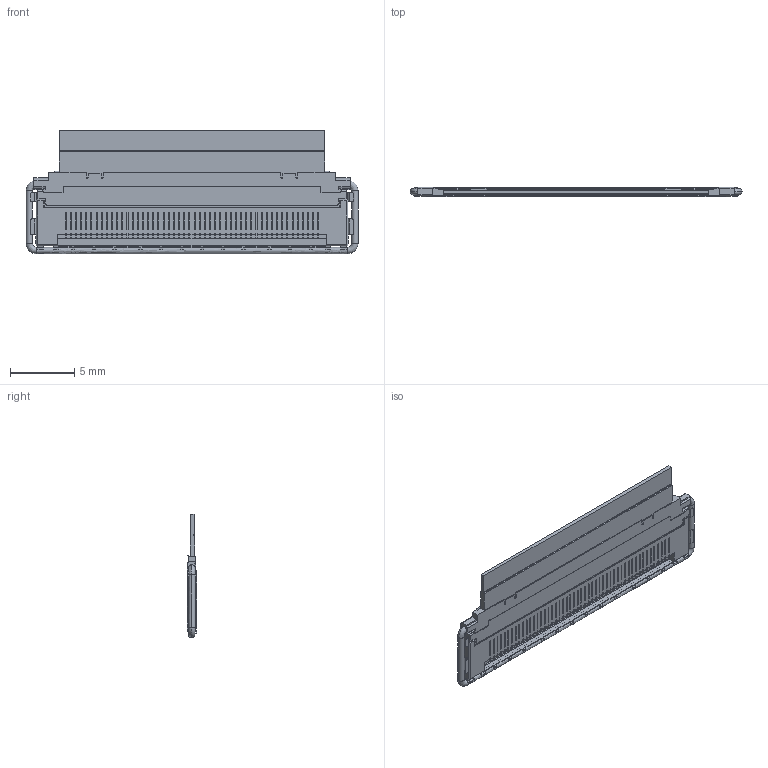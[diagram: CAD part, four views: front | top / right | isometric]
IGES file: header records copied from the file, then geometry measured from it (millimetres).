
Start section: SolidWorks IGES file using analytic representation for surfaces
Global section: file name: C:\3dwork\watanabe\20250902_CABLINE-CAL_IIF Web3D\21088-050T-01+21089-050E-01C MATING IGES R1R1 ALL.IGS; native system: SolidWorks 2023; preprocessor: SolidWorks 2023; author: 83197; date: 250909.181529; units: millimetre
Bounding box: 25.74 x 0.74 x 9.57 mm (x, y, z)
Surface area: 568.2 mm2 (no closed solid volume)
Topology: 0 solids, 0 shells, 1105 faces, 6820 edges, 6820 vertices
Faces by surface type: bspline 742, revolution 363
